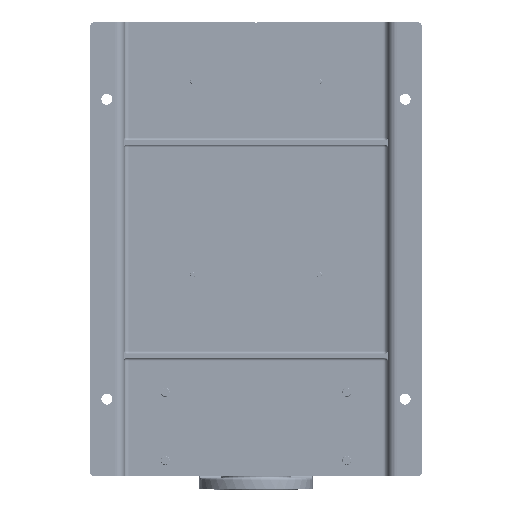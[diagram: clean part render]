
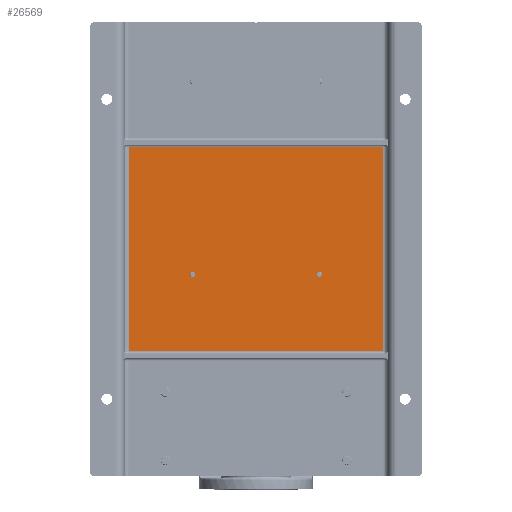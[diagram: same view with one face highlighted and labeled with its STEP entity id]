
A CAD part, front view. The second image highlights one B-rep face of the part: STEP entity #26569.
In plain terms, the highlighted planar face has unit normal (0, -1, 0).
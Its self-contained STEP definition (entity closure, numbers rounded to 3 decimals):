
#4429 = CIRCLE ( 'NONE', #23890, 6. ) ;
#6942 = LINE ( 'NONE', #229632, #129040 ) ;
#7326 = DIRECTION ( 'NONE',  ( 0., -1., 0. ) ) ;
#22234 = CARTESIAN_POINT ( 'NONE',  ( 225.5, 90., -444. ) ) ;
#23890 = AXIS2_PLACEMENT_3D ( 'NONE', #92410, #114252, #171457 ) ;
#25165 = DIRECTION ( 'NONE',  ( 1., 0., 0. ) ) ;
#26116 = AXIS2_PLACEMENT_3D ( 'NONE', #22234, #95258, #58693 ) ;
#26569 = ADVANCED_FACE ( 'NONE', ( #82729, #201561, #231230 ), #64463, .T. ) ;
#27560 = DIRECTION ( 'NONE',  ( 0., 0., 1. ) ) ;
#42640 = EDGE_LOOP ( 'NONE', ( #199775, #93197 ) ) ;
#43900 = VECTOR ( 'NONE', #153531, 1000. ) ;
#45007 = CARTESIAN_POINT ( 'NONE',  ( 75., 90., -1000. ) ) ;
#45023 = EDGE_CURVE ( 'NONE', #230592, #229361, #62203, .T. ) ;
#46106 = VERTEX_POINT ( 'NONE', #81734 ) ;
#47003 = DIRECTION ( 'NONE',  ( 0., 1., 0. ) ) ;
#57723 = LINE ( 'NONE', #131976, #63700 ) ;
#58693 = DIRECTION ( 'NONE',  ( 1., 0., 0. ) ) ;
#62203 = LINE ( 'NONE', #136481, #43900 ) ;
#63700 = VECTOR ( 'NONE', #97838, 1000. ) ;
#64463 = PLANE ( 'NONE',  #189160 ) ;
#71372 = VERTEX_POINT ( 'NONE', #90014 ) ;
#77383 = ORIENTED_EDGE ( 'NONE', *, *, #166476, .T. ) ;
#78654 = CIRCLE ( 'NONE', #234000, 6. ) ;
#81734 = CARTESIAN_POINT ( 'NONE',  ( 231.5, 90., -444. ) ) ;
#82729 = FACE_BOUND ( 'NONE', #42640, .T. ) ;
#82756 = CARTESIAN_POINT ( 'NONE',  ( 645., 90., -275. ) ) ;
#87499 = AXIS2_PLACEMENT_3D ( 'NONE', #181513, #238643, #182681 ) ;
#89674 = EDGE_LOOP ( 'NONE', ( #141819, #77383, #227195, #133908 ) ) ;
#90014 = CARTESIAN_POINT ( 'NONE',  ( 498.5, 90., -444. ) ) ;
#92140 = VECTOR ( 'NONE', #198911, 1000. ) ;
#92410 = CARTESIAN_POINT ( 'NONE',  ( 504.5, 90., -444. ) ) ;
#93197 = ORIENTED_EDGE ( 'NONE', *, *, #145325, .T. ) ;
#95258 = DIRECTION ( 'NONE',  ( 0., 1., 0. ) ) ;
#97838 = DIRECTION ( 'NONE',  ( 0., 0., -1. ) ) ;
#114252 = DIRECTION ( 'NONE',  ( 0., 1., 0. ) ) ;
#129040 = VECTOR ( 'NONE', #27560, 1000. ) ;
#131976 = CARTESIAN_POINT ( 'NONE',  ( 85., 90., -730. ) ) ;
#133517 = ORIENTED_EDGE ( 'NONE', *, *, #140774, .T. ) ;
#133908 = ORIENTED_EDGE ( 'NONE', *, *, #45023, .T. ) ;
#136481 = CARTESIAN_POINT ( 'NONE',  ( 75., 90., -275. ) ) ;
#140774 = EDGE_CURVE ( 'NONE', #71372, #149155, #204033, .T. ) ;
#141819 = ORIENTED_EDGE ( 'NONE', *, *, #178074, .T. ) ;
#144140 = CARTESIAN_POINT ( 'NONE',  ( 75., 90., -725. ) ) ;
#145325 = EDGE_CURVE ( 'NONE', #46106, #193381, #232014, .T. ) ;
#149155 = VERTEX_POINT ( 'NONE', #222007 ) ;
#153531 = DIRECTION ( 'NONE',  ( -1., 0., 0. ) ) ;
#155379 = CARTESIAN_POINT ( 'NONE',  ( 225.5, 90., -444. ) ) ;
#161664 = VERTEX_POINT ( 'NONE', #206294 ) ;
#161836 = VERTEX_POINT ( 'NONE', #176999 ) ;
#166476 = EDGE_CURVE ( 'NONE', #161664, #161836, #179496, .T. ) ;
#171457 = DIRECTION ( 'NONE',  ( -1., 0., 0. ) ) ;
#175566 = CARTESIAN_POINT ( 'NONE',  ( 219.5, 90., -444. ) ) ;
#176999 = CARTESIAN_POINT ( 'NONE',  ( 645., 90., -725. ) ) ;
#177677 = DIRECTION ( 'NONE',  ( 0., 0., -1. ) ) ;
#178074 = EDGE_CURVE ( 'NONE', #229361, #161664, #57723, .T. ) ;
#179496 = LINE ( 'NONE', #144140, #92140 ) ;
#181513 = CARTESIAN_POINT ( 'NONE',  ( 504.5, 90., -444. ) ) ;
#182681 = DIRECTION ( 'NONE',  ( -1., 0., 0. ) ) ;
#189160 = AXIS2_PLACEMENT_3D ( 'NONE', #45007, #7326, #177677 ) ;
#193381 = VERTEX_POINT ( 'NONE', #175566 ) ;
#197622 = ORIENTED_EDGE ( 'NONE', *, *, #233998, .T. ) ;
#198911 = DIRECTION ( 'NONE',  ( 1., 0., 0. ) ) ;
#199775 = ORIENTED_EDGE ( 'NONE', *, *, #221090, .T. ) ;
#201561 = FACE_BOUND ( 'NONE', #239973, .T. ) ;
#202731 = CARTESIAN_POINT ( 'NONE',  ( 85., 90., -275. ) ) ;
#204033 = CIRCLE ( 'NONE', #87499, 6. ) ;
#206294 = CARTESIAN_POINT ( 'NONE',  ( 85., 90., -725. ) ) ;
#221090 = EDGE_CURVE ( 'NONE', #193381, #46106, #78654, .T. ) ;
#221113 = EDGE_CURVE ( 'NONE', #161836, #230592, #6942, .T. ) ;
#222007 = CARTESIAN_POINT ( 'NONE',  ( 510.5, 90., -444. ) ) ;
#227195 = ORIENTED_EDGE ( 'NONE', *, *, #221113, .T. ) ;
#229361 = VERTEX_POINT ( 'NONE', #202731 ) ;
#229632 = CARTESIAN_POINT ( 'NONE',  ( 645., 90., -270. ) ) ;
#230592 = VERTEX_POINT ( 'NONE', #82756 ) ;
#231230 = FACE_OUTER_BOUND ( 'NONE', #89674, .T. ) ;
#232014 = CIRCLE ( 'NONE', #26116, 6. ) ;
#233998 = EDGE_CURVE ( 'NONE', #149155, #71372, #4429, .T. ) ;
#234000 = AXIS2_PLACEMENT_3D ( 'NONE', #155379, #47003, #25165 ) ;
#238643 = DIRECTION ( 'NONE',  ( 0., 1., 0. ) ) ;
#239973 = EDGE_LOOP ( 'NONE', ( #133517, #197622 ) ) ;
